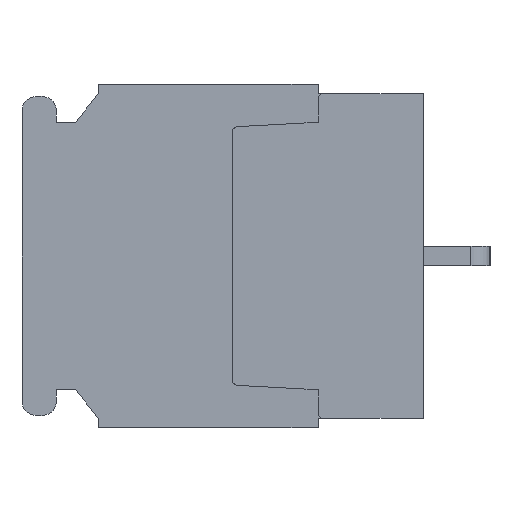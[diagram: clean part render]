
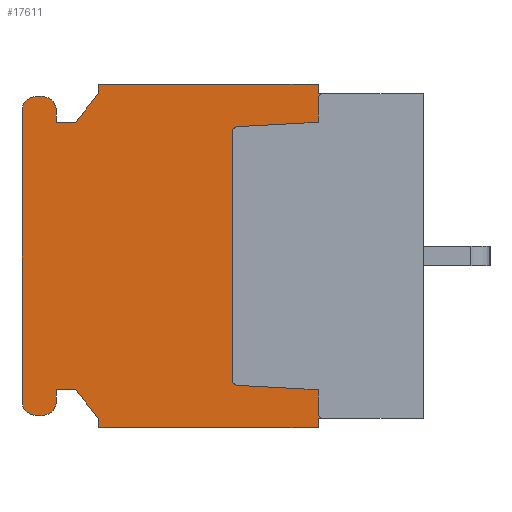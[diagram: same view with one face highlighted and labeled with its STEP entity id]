
A CAD part, left-side view. The second image highlights one B-rep face of the part: STEP entity #17611.
In plain terms, the highlighted planar face has unit normal (-1, 0, 0).
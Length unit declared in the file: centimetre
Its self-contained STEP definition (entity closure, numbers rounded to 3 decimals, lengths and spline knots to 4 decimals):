
#624=VECTOR('',#18371,1.);
#686=VECTOR('',#18435,1.);
#1400=VECTOR('',#20277,1.);
#1402=VECTOR('',#20280,1.);
#1404=VECTOR('',#20283,1.);
#1405=VECTOR('',#20285,1.);
#1407=VECTOR('',#20288,1.);
#1409=VECTOR('',#20291,1.);
#1411=VECTOR('',#20294,1.);
#1413=VECTOR('',#20297,1.);
#1415=VECTOR('',#20300,1.);
#1418=VECTOR('',#20308,1.);
#1421=VECTOR('',#20316,1.);
#1424=VECTOR('',#20324,1.);
#1427=VECTOR('',#20332,1.);
#1429=VECTOR('',#20335,1.);
#1431=VECTOR('',#20338,1.);
#1923=VECTOR('',#21076,1.);
#1924=VECTOR('',#21077,1.);
#1925=VECTOR('',#21080,1.);
#1926=VECTOR('',#21083,1.);
#1927=VECTOR('',#21084,1.);
#2434=LINE('',#22191,#624);
#2496=LINE('',#22314,#686);
#3210=LINE('',#24661,#1400);
#3212=LINE('',#24665,#1402);
#3214=LINE('',#24669,#1404);
#3215=LINE('',#24671,#1405);
#3217=LINE('',#24675,#1407);
#3219=LINE('',#24679,#1409);
#3221=LINE('',#24683,#1411);
#3223=LINE('',#24687,#1413);
#3225=LINE('',#24691,#1415);
#3228=LINE('',#24699,#1418);
#3231=LINE('',#24707,#1421);
#3234=LINE('',#24715,#1424);
#3237=LINE('',#24723,#1427);
#3239=LINE('',#24727,#1429);
#3241=LINE('',#24731,#1431);
#3733=LINE('',#26458,#1923);
#3734=LINE('',#26460,#1924);
#3735=LINE('',#26464,#1925);
#3736=LINE('',#26468,#1926);
#3737=LINE('',#26470,#1927);
#4659=PLANE('',#29127);
#5112=CIRCLE('',#28908,0.075);
#5113=CIRCLE('',#28911,0.075);
#5114=CIRCLE('',#28914,0.075);
#5115=CIRCLE('',#28917,0.075);
#5138=CIRCLE('',#29128,0.03);
#5139=CIRCLE('',#29129,0.03);
#5140=CIRCLE('',#29130,0.03);
#5141=CIRCLE('',#29131,0.03);
#5357=VERTEX_POINT('',#22190);
#5358=VERTEX_POINT('',#22192);
#5416=VERTEX_POINT('',#22313);
#5417=VERTEX_POINT('',#22315);
#6093=VERTEX_POINT('',#24660);
#6094=VERTEX_POINT('',#24662);
#6095=VERTEX_POINT('',#24666);
#6096=VERTEX_POINT('',#24672);
#6097=VERTEX_POINT('',#24676);
#6098=VERTEX_POINT('',#24680);
#6099=VERTEX_POINT('',#24684);
#6100=VERTEX_POINT('',#24688);
#6101=VERTEX_POINT('',#24692);
#6102=VERTEX_POINT('',#24696);
#6103=VERTEX_POINT('',#24700);
#6104=VERTEX_POINT('',#24704);
#6105=VERTEX_POINT('',#24708);
#6106=VERTEX_POINT('',#24712);
#6107=VERTEX_POINT('',#24716);
#6108=VERTEX_POINT('',#24720);
#6109=VERTEX_POINT('',#24724);
#6110=VERTEX_POINT('',#24728);
#6513=VERTEX_POINT('',#26457);
#6514=VERTEX_POINT('',#26459);
#6515=VERTEX_POINT('',#26461);
#6516=VERTEX_POINT('',#26463);
#6517=VERTEX_POINT('',#26465);
#6518=VERTEX_POINT('',#26467);
#6519=VERTEX_POINT('',#26469);
#6520=VERTEX_POINT('',#26471);
#7192=EDGE_CURVE('',#5358,#5357,#2434,.T.);
#7254=EDGE_CURVE('',#5417,#5416,#2496,.T.);
#8332=EDGE_CURVE('',#6094,#6093,#3210,.T.);
#8334=EDGE_CURVE('',#6095,#6094,#3212,.T.);
#8336=EDGE_CURVE('',#5357,#6095,#3214,.T.);
#8337=EDGE_CURVE('',#6096,#5417,#3215,.T.);
#8339=EDGE_CURVE('',#6097,#6096,#3217,.T.);
#8341=EDGE_CURVE('',#6098,#6097,#3219,.T.);
#8343=EDGE_CURVE('',#6099,#6098,#3221,.T.);
#8345=EDGE_CURVE('',#6100,#6099,#3223,.T.);
#8347=EDGE_CURVE('',#6101,#6100,#3225,.T.);
#8349=EDGE_CURVE('',#6101,#6102,#5112,.T.);
#8351=EDGE_CURVE('',#6103,#6102,#3228,.T.);
#8353=EDGE_CURVE('',#6103,#6104,#5113,.T.);
#8355=EDGE_CURVE('',#6105,#6104,#3231,.T.);
#8357=EDGE_CURVE('',#6105,#6106,#5114,.T.);
#8359=EDGE_CURVE('',#6107,#6106,#3234,.T.);
#8361=EDGE_CURVE('',#6107,#6108,#5115,.T.);
#8363=EDGE_CURVE('',#6109,#6108,#3237,.T.);
#8365=EDGE_CURVE('',#6110,#6109,#3239,.T.);
#8367=EDGE_CURVE('',#6093,#6110,#3241,.T.);
#8991=EDGE_CURVE('',#5416,#6513,#5138,.T.);
#8992=EDGE_CURVE('',#6513,#6514,#3733,.T.);
#8993=EDGE_CURVE('',#6514,#6515,#3734,.T.);
#8994=EDGE_CURVE('',#6515,#6516,#5139,.T.);
#8995=EDGE_CURVE('',#6516,#6517,#3735,.T.);
#8996=EDGE_CURVE('',#6517,#6518,#5140,.T.);
#8997=EDGE_CURVE('',#6518,#6519,#3736,.T.);
#8998=EDGE_CURVE('',#6519,#6520,#3737,.T.);
#8999=EDGE_CURVE('',#6520,#5358,#5141,.T.);
#13563=ORIENTED_EDGE('',*,*,#8991,.T.);
#13564=ORIENTED_EDGE('',*,*,#8992,.T.);
#13565=ORIENTED_EDGE('',*,*,#8993,.T.);
#13566=ORIENTED_EDGE('',*,*,#8994,.T.);
#13567=ORIENTED_EDGE('',*,*,#8995,.T.);
#13568=ORIENTED_EDGE('',*,*,#8996,.T.);
#13569=ORIENTED_EDGE('',*,*,#8997,.T.);
#13570=ORIENTED_EDGE('',*,*,#8998,.T.);
#13571=ORIENTED_EDGE('',*,*,#8999,.T.);
#13572=ORIENTED_EDGE('',*,*,#7192,.T.);
#13573=ORIENTED_EDGE('',*,*,#8336,.T.);
#13574=ORIENTED_EDGE('',*,*,#8334,.T.);
#13575=ORIENTED_EDGE('',*,*,#8332,.T.);
#13576=ORIENTED_EDGE('',*,*,#8367,.T.);
#13577=ORIENTED_EDGE('',*,*,#8365,.T.);
#13578=ORIENTED_EDGE('',*,*,#8363,.T.);
#13579=ORIENTED_EDGE('',*,*,#8361,.F.);
#13580=ORIENTED_EDGE('',*,*,#8359,.T.);
#13581=ORIENTED_EDGE('',*,*,#8357,.F.);
#13582=ORIENTED_EDGE('',*,*,#8355,.T.);
#13583=ORIENTED_EDGE('',*,*,#8353,.F.);
#13584=ORIENTED_EDGE('',*,*,#8351,.T.);
#13585=ORIENTED_EDGE('',*,*,#8349,.F.);
#13586=ORIENTED_EDGE('',*,*,#8347,.T.);
#13587=ORIENTED_EDGE('',*,*,#8345,.T.);
#13588=ORIENTED_EDGE('',*,*,#8343,.T.);
#13589=ORIENTED_EDGE('',*,*,#8341,.T.);
#13590=ORIENTED_EDGE('',*,*,#8339,.T.);
#13591=ORIENTED_EDGE('',*,*,#8337,.T.);
#13592=ORIENTED_EDGE('',*,*,#7254,.T.);
#15499=EDGE_LOOP('',(#13563,#13564,#13565,#13566,#13567,#13568,#13569,#13570,
#13571,#13572,#13573,#13574,#13575,#13576,#13577,#13578,#13579,#13580,#13581,
#13582,#13583,#13584,#13585,#13586,#13587,#13588,#13589,#13590,#13591,#13592));
#16593=FACE_BOUND('',#15499,.T.);
#17611=ADVANCED_FACE('',(#16593),#4659,.F.);
#18371=DIRECTION('',(0.,1.,0.));
#18435=DIRECTION('',(0.,-1.,0.));
#20277=DIRECTION('',(0.,0.,-1.));
#20280=DIRECTION('',(0.,1.,0.));
#20283=DIRECTION('',(0.,0.,1.));
#20285=DIRECTION('',(0.,0.,1.));
#20288=DIRECTION('',(0.,-1.,0.));
#20291=DIRECTION('',(0.,0.,-1.));
#20294=DIRECTION('',(0.,-0.625,-0.781));
#20297=DIRECTION('',(0.,-1.,0.));
#20300=DIRECTION('',(0.,0.,1.));
#20304=DIRECTION('',(1.,0.,0.));
#20305=DIRECTION('',(0.,0.,-0.075));
#20308=DIRECTION('',(0.,-1.,0.));
#20312=DIRECTION('',(1.,0.,0.));
#20313=DIRECTION('',(0.,0.,-0.075));
#20316=DIRECTION('',(0.,0.,-1.));
#20320=DIRECTION('',(1.,0.,0.));
#20321=DIRECTION('',(0.,0.,-0.075));
#20324=DIRECTION('',(0.,1.,0.));
#20328=DIRECTION('',(1.,0.,0.));
#20329=DIRECTION('',(0.,0.,-0.075));
#20332=DIRECTION('',(0.,0.,1.));
#20335=DIRECTION('',(0.,1.,0.));
#20338=DIRECTION('',(0.,0.625,-0.781));
#21073=DIRECTION('',(1.,0.,0.));
#21074=DIRECTION('',(1.,0.,0.));
#21075=DIRECTION('',(0.,0.,-0.03));
#21076=DIRECTION('',(0.,0.,1.));
#21077=DIRECTION('',(0.,0.999,0.054));
#21078=DIRECTION('',(1.,0.,0.));
#21079=DIRECTION('',(0.,0.,-0.03));
#21080=DIRECTION('',(0.,0.,1.));
#21081=DIRECTION('',(1.,0.,0.));
#21082=DIRECTION('',(0.,0.,-0.03));
#21083=DIRECTION('',(0.,-0.999,0.054));
#21084=DIRECTION('',(0.,0.,1.));
#21085=DIRECTION('',(1.,0.,0.));
#21086=DIRECTION('',(0.,0.,-0.03));
#22190=CARTESIAN_POINT('',(-1.3,0.55,0.85));
#22191=CARTESIAN_POINT('',(-1.3,0.,0.85));
#22192=CARTESIAN_POINT('',(-1.3,0.52,0.85));
#22313=CARTESIAN_POINT('',(-1.3,0.52,-0.85));
#22314=CARTESIAN_POINT('',(-1.3,0.55,-0.85));
#22315=CARTESIAN_POINT('',(-1.3,0.55,-0.85));
#24660=CARTESIAN_POINT('',(-1.3,1.7,0.85));
#24661=CARTESIAN_POINT('',(-1.3,1.7,0.9));
#24662=CARTESIAN_POINT('',(-1.3,1.7,0.9));
#24665=CARTESIAN_POINT('',(-1.3,0.55,0.9));
#24666=CARTESIAN_POINT('',(-1.3,0.55,0.9));
#24669=CARTESIAN_POINT('',(-1.3,0.55,0.85));
#24671=CARTESIAN_POINT('',(-1.3,0.55,-0.9));
#24672=CARTESIAN_POINT('',(-1.3,0.55,-0.9));
#24675=CARTESIAN_POINT('',(-1.3,1.7,-0.9));
#24676=CARTESIAN_POINT('',(-1.3,1.7,-0.9));
#24679=CARTESIAN_POINT('',(-1.3,1.7,-0.85));
#24680=CARTESIAN_POINT('',(-1.3,1.7,-0.85));
#24683=CARTESIAN_POINT('',(-1.3,1.82,-0.7));
#24684=CARTESIAN_POINT('',(-1.3,1.82,-0.7));
#24687=CARTESIAN_POINT('',(-1.3,1.92,-0.7));
#24688=CARTESIAN_POINT('',(-1.3,1.92,-0.7));
#24691=CARTESIAN_POINT('',(-1.3,1.92,-0.76));
#24692=CARTESIAN_POINT('',(-1.3,1.92,-0.76));
#24695=CARTESIAN_POINT('',(-1.3,1.995,-0.76));
#24696=CARTESIAN_POINT('',(-1.3,1.995,-0.835));
#24699=CARTESIAN_POINT('',(-1.3,2.025,-0.835));
#24700=CARTESIAN_POINT('',(-1.3,2.025,-0.835));
#24703=CARTESIAN_POINT('',(-1.3,2.025,-0.76));
#24704=CARTESIAN_POINT('',(-1.3,2.1,-0.76));
#24707=CARTESIAN_POINT('',(-1.3,2.1,0.76));
#24708=CARTESIAN_POINT('',(-1.3,2.1,0.76));
#24711=CARTESIAN_POINT('',(-1.3,2.025,0.76));
#24712=CARTESIAN_POINT('',(-1.3,2.025,0.835));
#24715=CARTESIAN_POINT('',(-1.3,1.995,0.835));
#24716=CARTESIAN_POINT('',(-1.3,1.995,0.835));
#24719=CARTESIAN_POINT('',(-1.3,1.995,0.76));
#24720=CARTESIAN_POINT('',(-1.3,1.92,0.76));
#24723=CARTESIAN_POINT('',(-1.3,1.92,0.7));
#24724=CARTESIAN_POINT('',(-1.3,1.92,0.7));
#24727=CARTESIAN_POINT('',(-1.3,1.82,0.7));
#24728=CARTESIAN_POINT('',(-1.3,1.82,0.7));
#24731=CARTESIAN_POINT('',(-1.3,1.7,0.85));
#26455=CARTESIAN_POINT('',(-1.3,1.0745,0.));
#26456=CARTESIAN_POINT('',(-1.3,0.52,-0.82));
#26457=CARTESIAN_POINT('',(-1.3,0.55,-0.82));
#26458=CARTESIAN_POINT('',(-1.3,0.55,-0.38));
#26459=CARTESIAN_POINT('',(-1.3,0.55,-0.7));
#26460=CARTESIAN_POINT('',(-1.3,0.9358,-0.6792));
#26461=CARTESIAN_POINT('',(-1.3,0.9718,-0.6773));
#26462=CARTESIAN_POINT('',(-1.3,0.97,-0.6473));
#26463=CARTESIAN_POINT('',(-1.3,1.,-0.6473));
#26464=CARTESIAN_POINT('',(-1.3,1.,0.));
#26465=CARTESIAN_POINT('',(-1.3,1.,0.6473));
#26466=CARTESIAN_POINT('',(-1.3,0.97,0.6473));
#26467=CARTESIAN_POINT('',(-1.3,0.9718,0.6773));
#26468=CARTESIAN_POINT('',(-1.3,0.9358,0.6792));
#26469=CARTESIAN_POINT('',(-1.3,0.55,0.7));
#26470=CARTESIAN_POINT('',(-1.3,0.55,0.38));
#26471=CARTESIAN_POINT('',(-1.3,0.55,0.82));
#26472=CARTESIAN_POINT('',(-1.3,0.52,0.82));
#28908=AXIS2_PLACEMENT_3D('',#24695,#20304,#20305);
#28911=AXIS2_PLACEMENT_3D('',#24703,#20312,#20313);
#28914=AXIS2_PLACEMENT_3D('',#24711,#20320,#20321);
#28917=AXIS2_PLACEMENT_3D('',#24719,#20328,#20329);
#29127=AXIS2_PLACEMENT_3D('',#26455,#21073,$);
#29128=AXIS2_PLACEMENT_3D('',#26456,#21074,#21075);
#29129=AXIS2_PLACEMENT_3D('',#26462,#21078,#21079);
#29130=AXIS2_PLACEMENT_3D('',#26466,#21081,#21082);
#29131=AXIS2_PLACEMENT_3D('',#26472,#21085,#21086);
